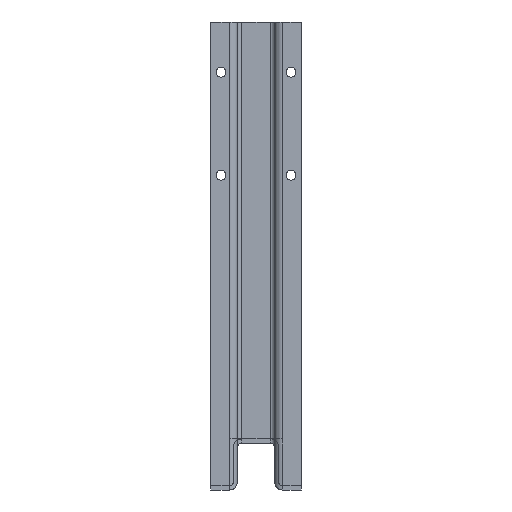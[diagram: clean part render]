
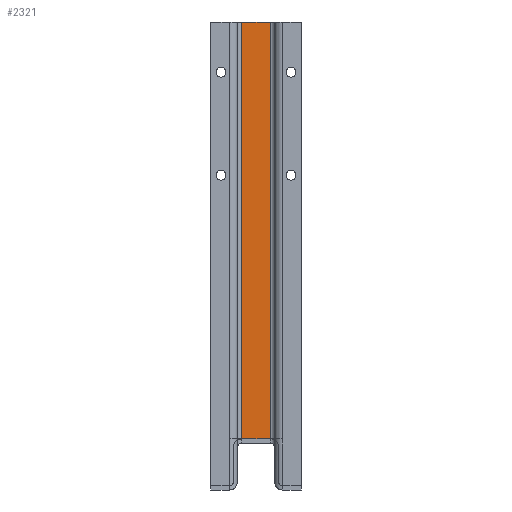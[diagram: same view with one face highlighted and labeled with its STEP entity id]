
A CAD part, left-side view. The second image highlights one B-rep face of the part: STEP entity #2321.
In plain terms, the highlighted planar face has unit normal (-1, 0, 0).
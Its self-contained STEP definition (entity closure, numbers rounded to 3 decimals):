
#55 = PLANE('',#56);
#56 = AXIS2_PLACEMENT_3D('',#57,#58,#59);
#57 = CARTESIAN_POINT('',(29.017,0.,0.));
#58 = DIRECTION('',(-0.,-0.,-1.));
#59 = DIRECTION('',(-1.,0.,0.));
#636 = VERTEX_POINT('',#637);
#637 = CARTESIAN_POINT('',(57.,-17.5,0.));
#656 = CYLINDRICAL_SURFACE('',#657,5.);
#657 = AXIS2_PLACEMENT_3D('',#658,#659,#660);
#658 = CARTESIAN_POINT('',(52.,-17.5,0.));
#659 = DIRECTION('',(0.,0.,1.));
#660 = DIRECTION('',(1.,0.,0.));
#668 = EDGE_CURVE('',#636,#669,#671,.T.);
#669 = VERTEX_POINT('',#670);
#670 = CARTESIAN_POINT('',(57.,17.5,0.));
#671 = SURFACE_CURVE('',#672,(#676,#683),.PCURVE_S1.);
#672 = LINE('',#673,#674);
#673 = CARTESIAN_POINT('',(57.,-17.5,0.));
#674 = VECTOR('',#675,1.);
#675 = DIRECTION('',(0.,1.,0.));
#676 = PCURVE('',#55,#677);
#677 = DEFINITIONAL_REPRESENTATION('',(#678),#682);
#678 = LINE('',#679,#680);
#679 = CARTESIAN_POINT('',(-27.983,-17.5));
#680 = VECTOR('',#681,1.);
#681 = DIRECTION('',(0.,1.));
#682 = ( GEOMETRIC_REPRESENTATION_CONTEXT(2) 
PARAMETRIC_REPRESENTATION_CONTEXT() REPRESENTATION_CONTEXT('2D SPACE',''
  ) );
#683 = PCURVE('',#684,#689);
#684 = PLANE('',#685);
#685 = AXIS2_PLACEMENT_3D('',#686,#687,#688);
#686 = CARTESIAN_POINT('',(57.,-17.5,0.));
#687 = DIRECTION('',(1.,0.,0.));
#688 = DIRECTION('',(0.,1.,0.));
#689 = DEFINITIONAL_REPRESENTATION('',(#690),#694);
#690 = LINE('',#691,#692);
#691 = CARTESIAN_POINT('',(0.,0.));
#692 = VECTOR('',#693,1.);
#693 = DIRECTION('',(1.,0.));
#694 = ( GEOMETRIC_REPRESENTATION_CONTEXT(2) 
PARAMETRIC_REPRESENTATION_CONTEXT() REPRESENTATION_CONTEXT('2D SPACE',''
  ) );
#717 = CYLINDRICAL_SURFACE('',#718,5.);
#718 = AXIS2_PLACEMENT_3D('',#719,#720,#721);
#719 = CARTESIAN_POINT('',(52.,17.5,0.));
#720 = DIRECTION('',(0.,0.,1.));
#721 = DIRECTION('',(1.,0.,0.));
#2273 = VERTEX_POINT('',#2274);
#2274 = CARTESIAN_POINT('',(57.,-17.5,-506.));
#2301 = EDGE_CURVE('',#636,#2273,#2302,.T.);
#2302 = SURFACE_CURVE('',#2303,(#2307,#2314),.PCURVE_S1.);
#2303 = LINE('',#2304,#2305);
#2304 = CARTESIAN_POINT('',(57.,-17.5,0.));
#2305 = VECTOR('',#2306,1.);
#2306 = DIRECTION('',(-0.,-0.,-1.));
#2307 = PCURVE('',#656,#2308);
#2308 = DEFINITIONAL_REPRESENTATION('',(#2309),#2313);
#2309 = LINE('',#2310,#2311);
#2310 = CARTESIAN_POINT('',(6.283,0.));
#2311 = VECTOR('',#2312,1.);
#2312 = DIRECTION('',(0.,-1.));
#2313 = ( GEOMETRIC_REPRESENTATION_CONTEXT(2) 
PARAMETRIC_REPRESENTATION_CONTEXT() REPRESENTATION_CONTEXT('2D SPACE',''
  ) );
#2314 = PCURVE('',#684,#2315);
#2315 = DEFINITIONAL_REPRESENTATION('',(#2316),#2320);
#2316 = LINE('',#2317,#2318);
#2317 = CARTESIAN_POINT('',(0.,0.));
#2318 = VECTOR('',#2319,1.);
#2319 = DIRECTION('',(0.,-1.));
#2320 = ( GEOMETRIC_REPRESENTATION_CONTEXT(2) 
PARAMETRIC_REPRESENTATION_CONTEXT() REPRESENTATION_CONTEXT('2D SPACE',''
  ) );
#2321 = ADVANCED_FACE('',(#2322),#684,.F.);
#2322 = FACE_BOUND('',#2323,.F.);
#2323 = EDGE_LOOP('',(#2324,#2325,#2326,#2354));
#2324 = ORIENTED_EDGE('',*,*,#668,.F.);
#2325 = ORIENTED_EDGE('',*,*,#2301,.T.);
#2326 = ORIENTED_EDGE('',*,*,#2327,.T.);
#2327 = EDGE_CURVE('',#2273,#2328,#2330,.T.);
#2328 = VERTEX_POINT('',#2329);
#2329 = CARTESIAN_POINT('',(57.,17.5,-506.));
#2330 = SURFACE_CURVE('',#2331,(#2335,#2342),.PCURVE_S1.);
#2331 = LINE('',#2332,#2333);
#2332 = CARTESIAN_POINT('',(57.,0.,-506.));
#2333 = VECTOR('',#2334,1.);
#2334 = DIRECTION('',(0.,1.,0.));
#2335 = PCURVE('',#684,#2336);
#2336 = DEFINITIONAL_REPRESENTATION('',(#2337),#2341);
#2337 = LINE('',#2338,#2339);
#2338 = CARTESIAN_POINT('',(17.5,-506.));
#2339 = VECTOR('',#2340,1.);
#2340 = DIRECTION('',(1.,0.));
#2341 = ( GEOMETRIC_REPRESENTATION_CONTEXT(2) 
PARAMETRIC_REPRESENTATION_CONTEXT() REPRESENTATION_CONTEXT('2D SPACE',''
  ) );
#2342 = PCURVE('',#2343,#2348);
#2343 = PLANE('',#2344);
#2344 = AXIS2_PLACEMENT_3D('',#2345,#2346,#2347);
#2345 = CARTESIAN_POINT('',(57.,17.5,-506.));
#2346 = DIRECTION('',(-1.,0.,0.));
#2347 = DIRECTION('',(0.,-1.,0.));
#2348 = DEFINITIONAL_REPRESENTATION('',(#2349),#2353);
#2349 = LINE('',#2350,#2351);
#2350 = CARTESIAN_POINT('',(17.5,0.));
#2351 = VECTOR('',#2352,1.);
#2352 = DIRECTION('',(-1.,0.));
#2353 = ( GEOMETRIC_REPRESENTATION_CONTEXT(2) 
PARAMETRIC_REPRESENTATION_CONTEXT() REPRESENTATION_CONTEXT('2D SPACE',''
  ) );
#2354 = ORIENTED_EDGE('',*,*,#2355,.F.);
#2355 = EDGE_CURVE('',#669,#2328,#2356,.T.);
#2356 = SURFACE_CURVE('',#2357,(#2361,#2368),.PCURVE_S1.);
#2357 = LINE('',#2358,#2359);
#2358 = CARTESIAN_POINT('',(57.,17.5,0.));
#2359 = VECTOR('',#2360,1.);
#2360 = DIRECTION('',(-0.,-0.,-1.));
#2361 = PCURVE('',#684,#2362);
#2362 = DEFINITIONAL_REPRESENTATION('',(#2363),#2367);
#2363 = LINE('',#2364,#2365);
#2364 = CARTESIAN_POINT('',(35.,0.));
#2365 = VECTOR('',#2366,1.);
#2366 = DIRECTION('',(0.,-1.));
#2367 = ( GEOMETRIC_REPRESENTATION_CONTEXT(2) 
PARAMETRIC_REPRESENTATION_CONTEXT() REPRESENTATION_CONTEXT('2D SPACE',''
  ) );
#2368 = PCURVE('',#717,#2369);
#2369 = DEFINITIONAL_REPRESENTATION('',(#2370),#2374);
#2370 = LINE('',#2371,#2372);
#2371 = CARTESIAN_POINT('',(0.,0.));
#2372 = VECTOR('',#2373,1.);
#2373 = DIRECTION('',(0.,-1.));
#2374 = ( GEOMETRIC_REPRESENTATION_CONTEXT(2) 
PARAMETRIC_REPRESENTATION_CONTEXT() REPRESENTATION_CONTEXT('2D SPACE',''
  ) );
